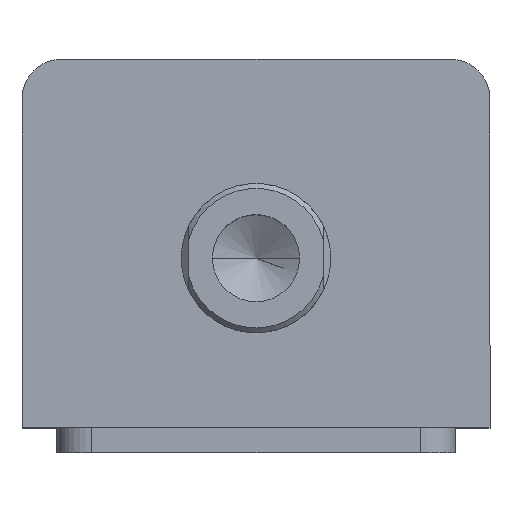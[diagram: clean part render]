
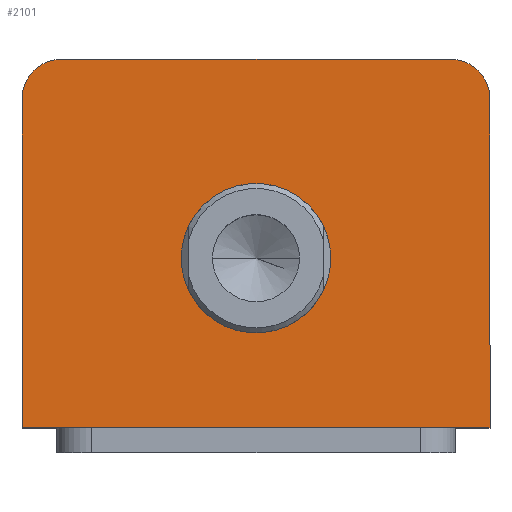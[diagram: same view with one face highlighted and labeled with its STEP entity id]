
A CAD part, top view. The second image highlights one B-rep face of the part: STEP entity #2101.
In plain terms, the highlighted planar face has unit normal (0, 0, 1).
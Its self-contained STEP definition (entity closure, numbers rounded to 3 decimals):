
#331 = AXIS2_PLACEMENT_3D ( 'NONE', #2785, #2784, #2783 ) ;
#351 = AXIS2_PLACEMENT_3D ( 'NONE', #2437, #2436, #2434 ) ;
#359 = AXIS2_PLACEMENT_3D ( 'NONE', #2393, #2391, #2390 ) ;
#364 = AXIS2_PLACEMENT_3D ( 'NONE', #496, #497, #498 ) ;
#424 = AXIS2_PLACEMENT_3D ( 'NONE', #792, #801, #802 ) ;
#496 = CARTESIAN_POINT ( 'NONE',  ( 0., -3., 105. ) ) ;
#497 = DIRECTION ( 'NONE',  ( 0., 0., 1. ) ) ;
#498 = DIRECTION ( 'NONE',  ( 1., 0., 0. ) ) ;
#620 = CARTESIAN_POINT ( 'NONE',  ( 15., -3., 105. ) ) ;
#625 = CARTESIAN_POINT ( 'NONE',  ( -15., -3., 105. ) ) ;
#792 = CARTESIAN_POINT ( 'NONE',  ( 0., 0., 105. ) ) ;
#796 = PLANE ( 'NONE',  #424 ) ;
#801 = DIRECTION ( 'NONE',  ( 0., 0., 1. ) ) ;
#802 = DIRECTION ( 'NONE',  ( 1., 0., 0. ) ) ;
#829 = CARTESIAN_POINT ( 'NONE',  ( -47., -37., 105. ) ) ;
#830 = CARTESIAN_POINT ( 'NONE',  ( -47., 29., 105. ) ) ;
#842 = CARTESIAN_POINT ( 'NONE',  ( 47., 29., 105. ) ) ;
#845 = CARTESIAN_POINT ( 'NONE',  ( 47., -37., 105. ) ) ;
#850 = CARTESIAN_POINT ( 'NONE',  ( 39., 37., 105. ) ) ;
#853 = CARTESIAN_POINT ( 'NONE',  ( -39., 37., 105. ) ) ;
#1126 = EDGE_CURVE ( 'NONE', #2039, #2038, #2322, .T. ) ;
#1158 = EDGE_CURVE ( 'NONE', #2593, #2596, #2221, .T. ) ;
#1170 = EDGE_CURVE ( 'NONE', #2588, #2585, #2198, .T. ) ;
#1187 = EDGE_CURVE ( 'NONE', #2585, #2593, #2173, .T. ) ;
#1197 = EDGE_CURVE ( 'NONE', #2596, #2573, #2159, .T. ) ;
#1203 = EDGE_CURVE ( 'NONE', #2572, #2588, #2151, .T. ) ;
#1211 = EDGE_CURVE ( 'NONE', #2573, #2572, #2135, .T. ) ;
#1220 = EDGE_CURVE ( 'NONE', #2038, #2039, #1245, .T. ) ;
#1245 = CIRCLE ( 'NONE', #364, 15. ) ;
#1359 = FACE_BOUND ( 'NONE', #1749, .T. ) ;
#1361 = FACE_OUTER_BOUND ( 'NONE', #1755, .T. ) ;
#1749 = EDGE_LOOP ( 'NONE', ( #2675, #2660 ) ) ;
#1755 = EDGE_LOOP ( 'NONE', ( #2661, #2696, #2687, #2874, #2659, #2654 ) ) ;
#1795 = DIRECTION ( 'NONE',  ( 0., -1., 0. ) ) ;
#1797 = CARTESIAN_POINT ( 'NONE',  ( -47., 37., 105. ) ) ;
#1973 = DIRECTION ( 'NONE',  ( 1., 0., 0. ) ) ;
#2013 = CARTESIAN_POINT ( 'NONE',  ( -47., -37., 105. ) ) ;
#2038 = VERTEX_POINT ( 'NONE', #620 ) ;
#2039 = VERTEX_POINT ( 'NONE', #625 ) ;
#2101 = ADVANCED_FACE ( 'NONE', ( #1359, #1361 ), #796, .T. ) ;
#2132 = VECTOR ( 'NONE', #1795, 1000. ) ;
#2135 = LINE ( 'NONE', #1797, #2132 ) ;
#2148 = VECTOR ( 'NONE', #1973, 1000. ) ;
#2151 = LINE ( 'NONE', #2013, #2148 ) ;
#2159 = CIRCLE ( 'NONE', #359, 8. ) ;
#2173 = CIRCLE ( 'NONE', #351, 8. ) ;
#2195 = VECTOR ( 'NONE', #2502, 1000. ) ;
#2198 = LINE ( 'NONE', #2503, #2195 ) ;
#2218 = VECTOR ( 'NONE', #2442, 1000. ) ;
#2221 = LINE ( 'NONE', #2446, #2218 ) ;
#2322 = CIRCLE ( 'NONE', #331, 15. ) ;
#2390 = DIRECTION ( 'NONE',  ( 1., 0., 0. ) ) ;
#2391 = DIRECTION ( 'NONE',  ( 0., 0., 1. ) ) ;
#2393 = CARTESIAN_POINT ( 'NONE',  ( -39., 29., 105. ) ) ;
#2434 = DIRECTION ( 'NONE',  ( 1., 0., 0. ) ) ;
#2436 = DIRECTION ( 'NONE',  ( 0., 0., 1. ) ) ;
#2437 = CARTESIAN_POINT ( 'NONE',  ( 39., 29., 105. ) ) ;
#2442 = DIRECTION ( 'NONE',  ( -1., 0., 0. ) ) ;
#2446 = CARTESIAN_POINT ( 'NONE',  ( -47., 37., 105. ) ) ;
#2502 = DIRECTION ( 'NONE',  ( 0., 1., 0. ) ) ;
#2503 = CARTESIAN_POINT ( 'NONE',  ( 47., 37., 105. ) ) ;
#2572 = VERTEX_POINT ( 'NONE', #829 ) ;
#2573 = VERTEX_POINT ( 'NONE', #830 ) ;
#2585 = VERTEX_POINT ( 'NONE', #842 ) ;
#2588 = VERTEX_POINT ( 'NONE', #845 ) ;
#2593 = VERTEX_POINT ( 'NONE', #850 ) ;
#2596 = VERTEX_POINT ( 'NONE', #853 ) ;
#2654 = ORIENTED_EDGE ( 'NONE', *, *, #1187, .T. ) ;
#2659 = ORIENTED_EDGE ( 'NONE', *, *, #1170, .T. ) ;
#2660 = ORIENTED_EDGE ( 'NONE', *, *, #1126, .F. ) ;
#2661 = ORIENTED_EDGE ( 'NONE', *, *, #1158, .T. ) ;
#2675 = ORIENTED_EDGE ( 'NONE', *, *, #1220, .F. ) ;
#2687 = ORIENTED_EDGE ( 'NONE', *, *, #1211, .T. ) ;
#2696 = ORIENTED_EDGE ( 'NONE', *, *, #1197, .T. ) ;
#2783 = DIRECTION ( 'NONE',  ( 1., 0., 0. ) ) ;
#2784 = DIRECTION ( 'NONE',  ( 0., 0., 1. ) ) ;
#2785 = CARTESIAN_POINT ( 'NONE',  ( 0., -3., 105. ) ) ;
#2874 = ORIENTED_EDGE ( 'NONE', *, *, #1203, .T. ) ;
